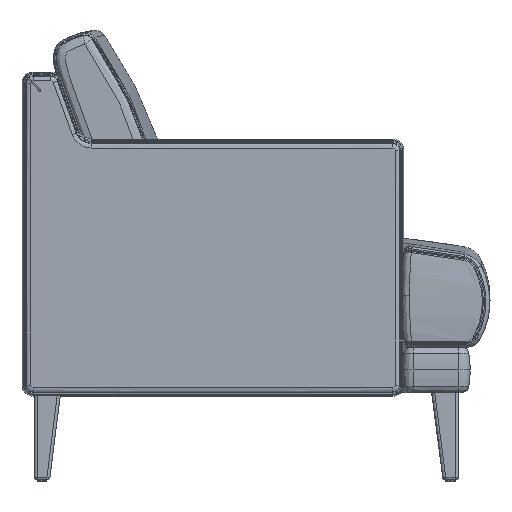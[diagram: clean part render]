
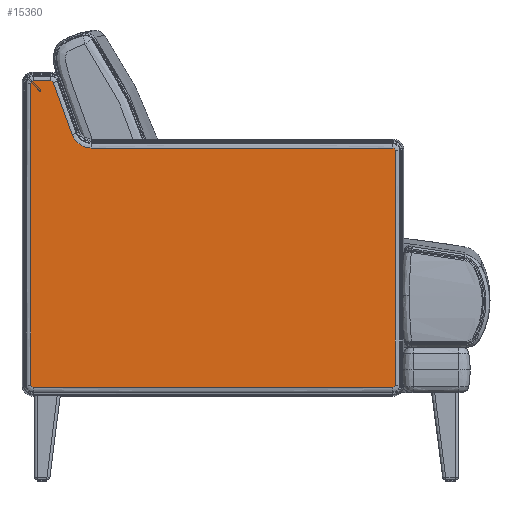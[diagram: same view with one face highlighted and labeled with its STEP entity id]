
A CAD part, left-side view. The second image highlights one B-rep face of the part: STEP entity #15360.
In plain terms, the highlighted planar face has unit normal (-1, 0, 0).
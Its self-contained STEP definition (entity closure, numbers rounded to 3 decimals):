
#382=PLANE('',#16365);
#1775=FACE_OUTER_BOUND('',#2791,.T.);
#2791=EDGE_LOOP('',(#12586,#12587,#12588,#12589,#12590,#12591,#12592,#12593,
#12594,#12595,#12596,#12597));
#4040=B_SPLINE_CURVE_WITH_KNOTS('',3,(#60738,#60739,#60740,#60741,#60742,
#60743,#60744),.UNSPECIFIED.,.F.,.F.,(4,1,1,1,4),(-0.669,-0.478,
-0.287,-0.191,0.),
 .UNSPECIFIED.);
#4041=B_SPLINE_CURVE_WITH_KNOTS('',3,(#60764,#60765,#60766,#60767),
 .UNSPECIFIED.,.F.,.F.,(4,4),(-39.381,0.),.UNSPECIFIED.);
#4042=B_SPLINE_CURVE_WITH_KNOTS('',3,(#60798,#60799,#60800,#60801,#60802,
#60803,#60804),.UNSPECIFIED.,.F.,.F.,(4,1,1,1,4),(-0.669,-0.573,
-0.382,-0.191,0.),
 .UNSPECIFIED.);
#4043=B_SPLINE_CURVE_WITH_KNOTS('',3,(#60823,#60824,#60825,#60826),
 .UNSPECIFIED.,.F.,.F.,(4,4),(-50.633,0.),.UNSPECIFIED.);
#4044=B_SPLINE_CURVE_WITH_KNOTS('',3,(#60853,#60854,#60855,#60856,#60857,
#60858),.UNSPECIFIED.,.F.,.F.,(4,1,1,4),(-4.138,-2.955,
-1.773,0.),.UNSPECIFIED.);
#4045=B_SPLINE_CURVE_WITH_KNOTS('',3,(#60877,#60878,#60879,#60880),
 .UNSPECIFIED.,.F.,.F.,(4,4),(-9.307,0.),.UNSPECIFIED.);
#4046=B_SPLINE_CURVE_WITH_KNOTS('',3,(#60899,#60900,#60901,#60902),
 .UNSPECIFIED.,.F.,.F.,(4,4),(-60.325,0.),.UNSPECIFIED.);
#4047=B_SPLINE_CURVE_WITH_KNOTS('',3,(#60930,#60931,#60932,#60933,#60934,
#60935),.UNSPECIFIED.,.F.,.F.,(4,1,1,4),(-0.52,-0.372,
-0.223,0.),.UNSPECIFIED.);
#4048=B_SPLINE_CURVE_WITH_KNOTS('',3,(#60954,#60955,#60956,#60957),
 .UNSPECIFIED.,.F.,.F.,(4,4),(-2.938,0.),.UNSPECIFIED.);
#4049=B_SPLINE_CURVE_WITH_KNOTS('',3,(#60988,#60989,#60990,#60991,#60992,
#60993,#60994),.UNSPECIFIED.,.F.,.F.,(4,1,1,1,4),(-0.669,-0.478,
-0.287,-0.191,0.),
 .UNSPECIFIED.);
#4050=B_SPLINE_CURVE_WITH_KNOTS('',3,(#61013,#61014,#61015,#61016),
 .UNSPECIFIED.,.F.,.F.,(4,4),(-50.64,0.),.UNSPECIFIED.);
#4051=B_SPLINE_CURVE_WITH_KNOTS('',3,(#61045,#61046,#61047,#61048,#61049,
#61050,#61051),.UNSPECIFIED.,.F.,.F.,(4,1,1,1,4),(-0.669,-0.573,
-0.382,-0.191,0.),
 .UNSPECIFIED.);
#6197=VERTEX_POINT('',#60735);
#6198=VERTEX_POINT('',#60737);
#6199=VERTEX_POINT('',#60762);
#6200=VERTEX_POINT('',#60796);
#6201=VERTEX_POINT('',#60821);
#6202=VERTEX_POINT('',#60851);
#6203=VERTEX_POINT('',#60875);
#6204=VERTEX_POINT('',#60898);
#6205=VERTEX_POINT('',#60928);
#6206=VERTEX_POINT('',#60952);
#6207=VERTEX_POINT('',#60986);
#6208=VERTEX_POINT('',#61011);
#8355=EDGE_CURVE('',#6197,#6198,#4040,.T.);
#8358=EDGE_CURVE('',#6199,#6197,#4041,.T.);
#8360=EDGE_CURVE('',#6200,#6199,#4042,.T.);
#8362=EDGE_CURVE('',#6201,#6200,#4043,.T.);
#8364=EDGE_CURVE('',#6202,#6201,#4044,.T.);
#8366=EDGE_CURVE('',#6203,#6202,#4045,.T.);
#8367=EDGE_CURVE('',#6198,#6204,#4046,.T.);
#8370=EDGE_CURVE('',#6205,#6203,#4047,.T.);
#8372=EDGE_CURVE('',#6206,#6205,#4048,.T.);
#8374=EDGE_CURVE('',#6207,#6206,#4049,.T.);
#8376=EDGE_CURVE('',#6208,#6207,#4050,.T.);
#8377=EDGE_CURVE('',#6204,#6208,#4051,.T.);
#12586=ORIENTED_EDGE('',*,*,#8366,.F.);
#12587=ORIENTED_EDGE('',*,*,#8370,.F.);
#12588=ORIENTED_EDGE('',*,*,#8372,.F.);
#12589=ORIENTED_EDGE('',*,*,#8374,.F.);
#12590=ORIENTED_EDGE('',*,*,#8376,.F.);
#12591=ORIENTED_EDGE('',*,*,#8377,.F.);
#12592=ORIENTED_EDGE('',*,*,#8367,.F.);
#12593=ORIENTED_EDGE('',*,*,#8355,.F.);
#12594=ORIENTED_EDGE('',*,*,#8358,.F.);
#12595=ORIENTED_EDGE('',*,*,#8360,.F.);
#12596=ORIENTED_EDGE('',*,*,#8362,.F.);
#12597=ORIENTED_EDGE('',*,*,#8364,.F.);
#15360=ADVANCED_FACE('',(#1775),#382,.T.);
#16365=AXIS2_PLACEMENT_3D('',#61052,#18202,#18203);
#18202=DIRECTION('center_axis',(-1.,0.,
0.));
#18203=DIRECTION('ref_axis',(0.,0.,
1.));
#60735=CARTESIAN_POINT('',(133.827,-115.056,6.427));
#60737=CARTESIAN_POINT('',(133.827,-114.889,6.26));
#60738=CARTESIAN_POINT('Ctrl Pts',(133.827,-115.056,6.427));
#60739=CARTESIAN_POINT('Ctrl Pts',(133.827,-115.056,6.402));
#60740=CARTESIAN_POINT('Ctrl Pts',(133.827,-115.045,6.352));
#60741=CARTESIAN_POINT('Ctrl Pts',(133.827,-115.005,6.302));
#60742=CARTESIAN_POINT('Ctrl Pts',(133.827,-114.952,6.268));
#60743=CARTESIAN_POINT('Ctrl Pts',(133.827,-114.914,6.26));
#60744=CARTESIAN_POINT('Ctrl Pts',(133.827,-114.889,6.26));
#60762=CARTESIAN_POINT('',(133.827,-115.056,21.932));
#60764=CARTESIAN_POINT('Ctrl Pts',(133.827,-115.056,21.932));
#60765=CARTESIAN_POINT('Ctrl Pts',(133.827,-115.056,16.764));
#60766=CARTESIAN_POINT('Ctrl Pts',(133.827,-115.056,11.595));
#60767=CARTESIAN_POINT('Ctrl Pts',(133.827,-115.056,6.427));
#60796=CARTESIAN_POINT('',(133.827,-114.889,22.099));
#60798=CARTESIAN_POINT('Ctrl Pts',(133.827,-114.889,22.099));
#60799=CARTESIAN_POINT('Ctrl Pts',(133.827,-114.901,22.099));
#60800=CARTESIAN_POINT('Ctrl Pts',(133.827,-114.939,22.095));
#60801=CARTESIAN_POINT('Ctrl Pts',(133.827,-114.997,22.067));
#60802=CARTESIAN_POINT('Ctrl Pts',(133.827,-115.045,22.007));
#60803=CARTESIAN_POINT('Ctrl Pts',(133.827,-115.056,21.957));
#60804=CARTESIAN_POINT('Ctrl Pts',(133.827,-115.056,21.932));
#60821=CARTESIAN_POINT('',(133.827,-94.955,22.099));
#60823=CARTESIAN_POINT('Ctrl Pts',(133.827,-94.955,22.099));
#60824=CARTESIAN_POINT('Ctrl Pts',(133.827,-101.6,22.099));
#60825=CARTESIAN_POINT('Ctrl Pts',(133.827,-108.244,22.099));
#60826=CARTESIAN_POINT('Ctrl Pts',(133.827,-114.889,22.099));
#60851=CARTESIAN_POINT('',(133.827,-93.702,22.977));
#60853=CARTESIAN_POINT('Ctrl Pts',(133.827,-93.702,22.977));
#60854=CARTESIAN_POINT('Ctrl Pts',(133.827,-93.755,22.831));
#60855=CARTESIAN_POINT('Ctrl Pts',(133.827,-93.913,22.559));
#60856=CARTESIAN_POINT('Ctrl Pts',(133.827,-94.335,22.204));
#60857=CARTESIAN_POINT('Ctrl Pts',(133.827,-94.722,22.099));
#60858=CARTESIAN_POINT('Ctrl Pts',(133.827,-94.955,22.099));
#60875=CARTESIAN_POINT('',(133.827,-92.452,26.421));
#60877=CARTESIAN_POINT('Ctrl Pts',(133.827,-92.452,26.421));
#60878=CARTESIAN_POINT('Ctrl Pts',(133.827,-92.869,25.273));
#60879=CARTESIAN_POINT('Ctrl Pts',(133.827,-93.286,24.125));
#60880=CARTESIAN_POINT('Ctrl Pts',(133.827,-93.702,22.977));
#60898=CARTESIAN_POINT('',(133.827,-91.139,6.26));
#60899=CARTESIAN_POINT('Ctrl Pts',(133.827,-114.889,6.26));
#60900=CARTESIAN_POINT('Ctrl Pts',(133.827,-106.972,6.26));
#60901=CARTESIAN_POINT('Ctrl Pts',(133.827,-99.056,6.26));
#60902=CARTESIAN_POINT('Ctrl Pts',(133.827,-91.139,6.26));
#60928=CARTESIAN_POINT('',(133.827,-92.295,26.532));
#60930=CARTESIAN_POINT('Ctrl Pts',(133.827,-92.295,26.532));
#60931=CARTESIAN_POINT('Ctrl Pts',(133.827,-92.314,26.532));
#60932=CARTESIAN_POINT('Ctrl Pts',(133.827,-92.353,26.525));
#60933=CARTESIAN_POINT('Ctrl Pts',(133.827,-92.413,26.49));
#60934=CARTESIAN_POINT('Ctrl Pts',(133.827,-92.442,26.449));
#60935=CARTESIAN_POINT('Ctrl Pts',(133.827,-92.452,26.421));
#60952=CARTESIAN_POINT('',(133.827,-91.138,26.532));
#60954=CARTESIAN_POINT('Ctrl Pts',(133.827,-91.138,26.532));
#60955=CARTESIAN_POINT('Ctrl Pts',(133.827,-91.524,26.532));
#60956=CARTESIAN_POINT('Ctrl Pts',(133.827,-91.909,26.532));
#60957=CARTESIAN_POINT('Ctrl Pts',(133.827,-92.295,26.532));
#60986=CARTESIAN_POINT('',(133.827,-90.971,26.364));
#60988=CARTESIAN_POINT('Ctrl Pts',(133.827,-90.971,26.364));
#60989=CARTESIAN_POINT('Ctrl Pts',(133.827,-90.971,26.389));
#60990=CARTESIAN_POINT('Ctrl Pts',(133.827,-90.982,26.439));
#60991=CARTESIAN_POINT('Ctrl Pts',(133.827,-91.022,26.49));
#60992=CARTESIAN_POINT('Ctrl Pts',(133.827,-91.075,26.523));
#60993=CARTESIAN_POINT('Ctrl Pts',(133.827,-91.113,26.532));
#60994=CARTESIAN_POINT('Ctrl Pts',(133.827,-91.138,26.532));
#61011=CARTESIAN_POINT('',(133.827,-90.971,6.427));
#61013=CARTESIAN_POINT('Ctrl Pts',(133.827,-90.971,6.427));
#61014=CARTESIAN_POINT('Ctrl Pts',(133.827,-90.971,13.073));
#61015=CARTESIAN_POINT('Ctrl Pts',(133.827,-90.971,19.719));
#61016=CARTESIAN_POINT('Ctrl Pts',(133.827,-90.971,26.364));
#61045=CARTESIAN_POINT('Ctrl Pts',(133.827,-91.139,6.26));
#61046=CARTESIAN_POINT('Ctrl Pts',(133.827,-91.126,6.26));
#61047=CARTESIAN_POINT('Ctrl Pts',(133.827,-91.089,6.264));
#61048=CARTESIAN_POINT('Ctrl Pts',(133.827,-91.031,6.292));
#61049=CARTESIAN_POINT('Ctrl Pts',(133.827,-90.983,6.352));
#61050=CARTESIAN_POINT('Ctrl Pts',(133.827,-90.971,6.402));
#61051=CARTESIAN_POINT('Ctrl Pts',(133.827,-90.971,6.427));
#61052=CARTESIAN_POINT('Origin',(133.827,-103.013,16.396));
